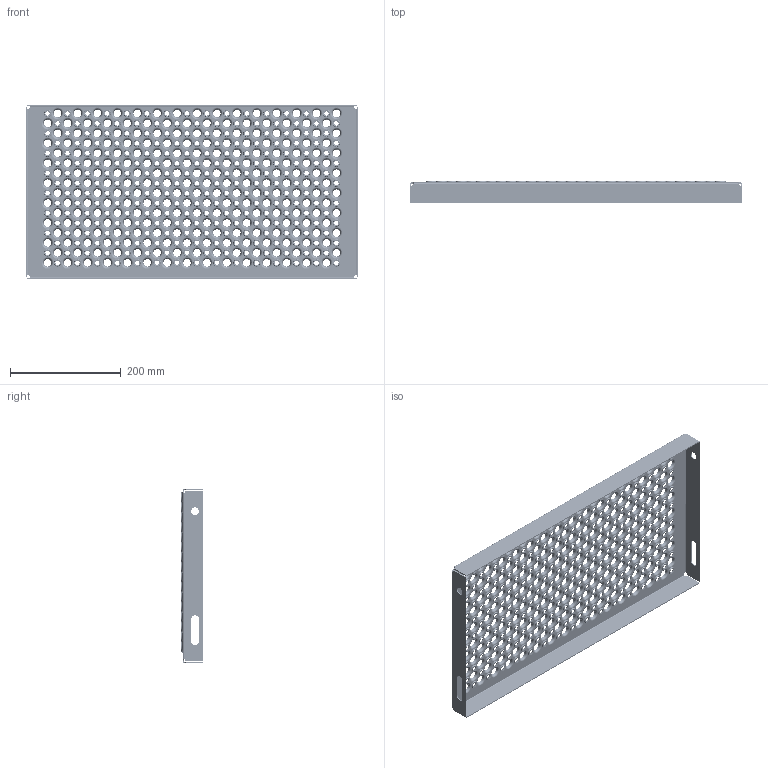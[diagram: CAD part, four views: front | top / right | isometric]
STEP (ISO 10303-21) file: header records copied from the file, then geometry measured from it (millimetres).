
FILE_DESCRIPTION (( 'STEP AP203' ), '1' );
FILE_NAME ('80243106G_Lejdertrin_315x600x45_mm_.STEP', '2015-06-09T05:46:41', ( '' ), ( '' ), 'SwSTEP 2.0', 'SolidWorks 2013', '' );
FILE_SCHEMA (( 'CONFIG_CONTROL_DESIGN' ));
Length unit declared in the file: millimetre
Products named in the file (1): 80243106G_Lejdertrin_315x600x45_mm_
Bounding box: 600 x 41 x 315 mm (x, y, z)
Volume: 463877.2 mm3; surface area: 503631.1 mm2
Topology: 1 solids, 1 shells, 2468 faces, 6886 edges, 4420 vertices
Faces by surface type: cone 1440, torus 960, cylinder 34, plane 26, bspline 8
Full cylindrical faces by diameter (mm): 14 x2
Entity records: 57181 total; most frequent: DIRECTION 10866, CARTESIAN_POINT 8993, ORIENTED_EDGE 6088, EDGE_LOOP 5838, AXIS2_PLACEMENT_3D 5393, FACE_OUTER_BOUND 3430, EDGE_CURVE 3044, VERTEX_POINT 2980
